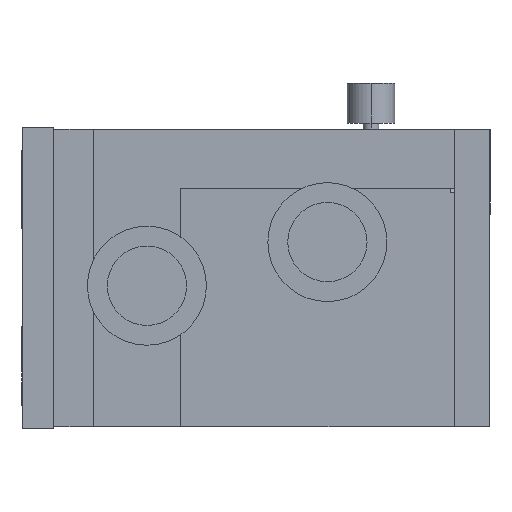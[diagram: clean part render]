
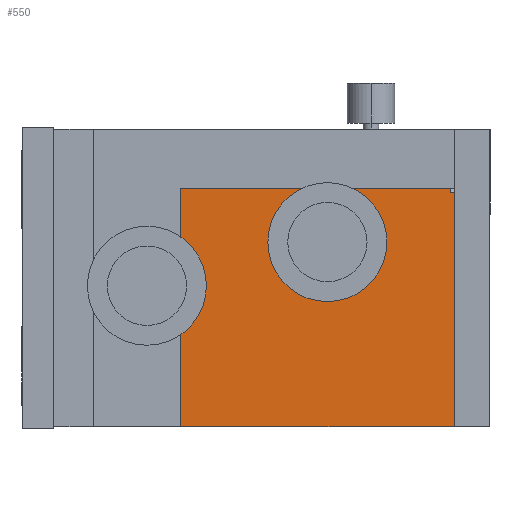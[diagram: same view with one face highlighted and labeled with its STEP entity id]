
A CAD part, left-side view. The second image highlights one B-rep face of the part: STEP entity #550.
In plain terms, the highlighted planar face has unit normal (-1, 0, 0).
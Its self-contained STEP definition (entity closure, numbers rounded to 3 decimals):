
#124 = VERTEX_POINT ( 'NONE', #2476 ) ;
#126 = EDGE_CURVE ( 'NONE', #127, #124, #2475, .T. ) ;
#127 = VERTEX_POINT ( 'NONE', #2470 ) ;
#535 = EDGE_CURVE ( 'NONE', #562, #560, #2990, .T. ) ;
#536 = ORIENTED_EDGE ( 'NONE', *, *, #537, .T. ) ;
#537 = EDGE_CURVE ( 'NONE', #562, #563, #2986, .T. ) ;
#538 = ORIENTED_EDGE ( 'NONE', *, *, #666, .T. ) ;
#539 = EDGE_LOOP ( 'NONE', ( #540, #541 ) ) ;
#540 = ORIENTED_EDGE ( 'NONE', *, *, #126, .T. ) ;
#541 = ORIENTED_EDGE ( 'NONE', *, *, #549, .T. ) ;
#549 = EDGE_CURVE ( 'NONE', #124, #127, #2843, .T. ) ;
#550 = ADVANCED_FACE ( 'NONE', ( #2838, #2837 ), #2836, .F. ) ;
#551 = EDGE_LOOP ( 'NONE', ( #552, #555, #558, #561, #536, #538 ) ) ;
#552 = ORIENTED_EDGE ( 'NONE', *, *, #553, .F. ) ;
#553 = EDGE_CURVE ( 'NONE', #554, #664, #2831, .T. ) ;
#554 = VERTEX_POINT ( 'NONE', #2827 ) ;
#555 = ORIENTED_EDGE ( 'NONE', *, *, #556, .T. ) ;
#556 = EDGE_CURVE ( 'NONE', #554, #557, #2985, .T. ) ;
#557 = VERTEX_POINT ( 'NONE', #2981 ) ;
#558 = ORIENTED_EDGE ( 'NONE', *, *, #559, .F. ) ;
#559 = EDGE_CURVE ( 'NONE', #560, #557, #2980, .T. ) ;
#560 = VERTEX_POINT ( 'NONE', #2976 ) ;
#561 = ORIENTED_EDGE ( 'NONE', *, *, #535, .F. ) ;
#562 = VERTEX_POINT ( 'NONE', #2975 ) ;
#563 = VERTEX_POINT ( 'NONE', #2974 ) ;
#664 = VERTEX_POINT ( 'NONE', #3101 ) ;
#666 = EDGE_CURVE ( 'NONE', #563, #664, #3100, .T. ) ;
#2470 = CARTESIAN_POINT ( 'NONE',  ( -20., 41., -0.5 ) ) ;
#2471 = DIRECTION ( 'NONE',  ( 0., 0., -1. ) ) ;
#2472 = DIRECTION ( 'NONE',  ( 1., 0., 0. ) ) ;
#2473 = CARTESIAN_POINT ( 'NONE',  ( -20., 41., 11.5 ) ) ;
#2474 = AXIS2_PLACEMENT_3D ( 'NONE', #2473, #2472, #2471 ) ;
#2475 = CIRCLE ( 'NONE', #2474, 12. ) ;
#2476 = CARTESIAN_POINT ( 'NONE',  ( -20., 41., 23.5 ) ) ;
#2827 = CARTESIAN_POINT ( 'NONE',  ( -20., 10., 24. ) ) ;
#2828 = DIRECTION ( 'NONE',  ( 0., -1., 0. ) ) ;
#2829 = VECTOR ( 'NONE', #2828, 1000. ) ;
#2830 = CARTESIAN_POINT ( 'NONE',  ( -20., 10., 24. ) ) ;
#2831 = LINE ( 'NONE', #2830, #2829 ) ;
#2832 = DIRECTION ( 'NONE',  ( 0., 0., -1. ) ) ;
#2833 = DIRECTION ( 'NONE',  ( 1., 0., 0. ) ) ;
#2834 = CARTESIAN_POINT ( 'NONE',  ( -20., 10., -35. ) ) ;
#2835 = AXIS2_PLACEMENT_3D ( 'NONE', #2834, #2833, #2832 ) ;
#2836 = PLANE ( 'NONE',  #2835 ) ;
#2837 = FACE_BOUND ( 'NONE', #539, .T. ) ;
#2838 = FACE_OUTER_BOUND ( 'NONE', #551, .T. ) ;
#2839 = DIRECTION ( 'NONE',  ( 0., 0., -1. ) ) ;
#2840 = DIRECTION ( 'NONE',  ( 1., 0., 0. ) ) ;
#2841 = CARTESIAN_POINT ( 'NONE',  ( -20., 41., 11.5 ) ) ;
#2842 = AXIS2_PLACEMENT_3D ( 'NONE', #2841, #2840, #2839 ) ;
#2843 = CIRCLE ( 'NONE', #2842, 12. ) ;
#2856 = DIRECTION ( 'NONE',  ( 0., -1., 0. ) ) ;
#2857 = VECTOR ( 'NONE', #2856, 1000. ) ;
#2858 = CARTESIAN_POINT ( 'NONE',  ( -20., 78., -35. ) ) ;
#2974 = CARTESIAN_POINT ( 'NONE',  ( -20., 9., -35. ) ) ;
#2975 = CARTESIAN_POINT ( 'NONE',  ( -20., 78., -35. ) ) ;
#2976 = CARTESIAN_POINT ( 'NONE',  ( -20., 78., 25. ) ) ;
#2977 = DIRECTION ( 'NONE',  ( 0., -1., 0. ) ) ;
#2978 = VECTOR ( 'NONE', #2977, 1000. ) ;
#2979 = CARTESIAN_POINT ( 'NONE',  ( -20., 78., 25. ) ) ;
#2980 = LINE ( 'NONE', #2979, #2978 ) ;
#2981 = CARTESIAN_POINT ( 'NONE',  ( -20., 10., 25. ) ) ;
#2982 = DIRECTION ( 'NONE',  ( 0., 0., 1. ) ) ;
#2983 = VECTOR ( 'NONE', #2982, 1000. ) ;
#2984 = CARTESIAN_POINT ( 'NONE',  ( -20., 10., -35. ) ) ;
#2985 = LINE ( 'NONE', #2984, #2983 ) ;
#2986 = LINE ( 'NONE', #2858, #2857 ) ;
#2987 = DIRECTION ( 'NONE',  ( 0., 0., 1. ) ) ;
#2988 = VECTOR ( 'NONE', #2987, 1000. ) ;
#2989 = CARTESIAN_POINT ( 'NONE',  ( -20., 78., -35. ) ) ;
#2990 = LINE ( 'NONE', #2989, #2988 ) ;
#3097 = DIRECTION ( 'NONE',  ( 0., 0., 1. ) ) ;
#3098 = VECTOR ( 'NONE', #3097, 1000. ) ;
#3099 = CARTESIAN_POINT ( 'NONE',  ( -20., 9., -35. ) ) ;
#3100 = LINE ( 'NONE', #3099, #3098 ) ;
#3101 = CARTESIAN_POINT ( 'NONE',  ( -20., 9., 24. ) ) ;
